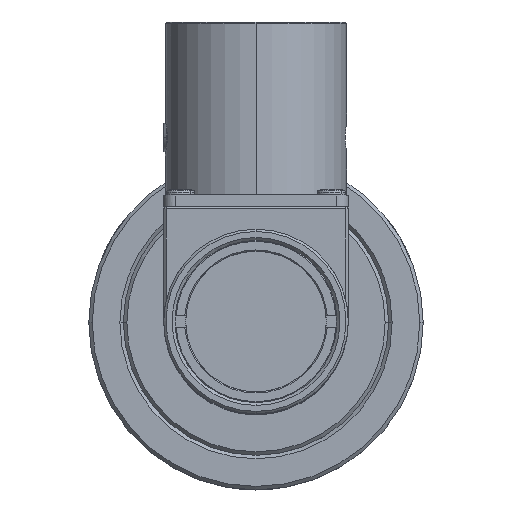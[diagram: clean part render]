
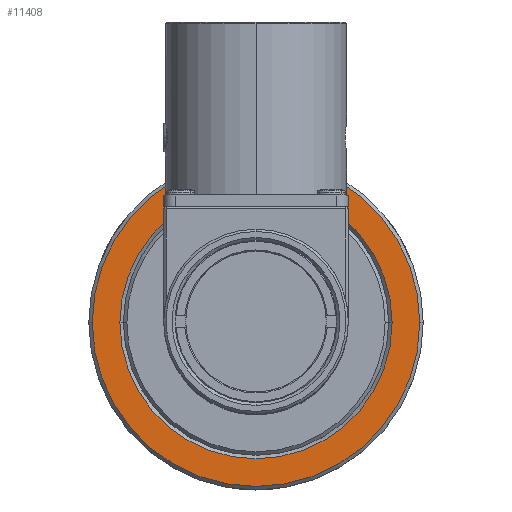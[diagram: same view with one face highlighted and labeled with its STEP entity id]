
A CAD part, top view. The second image highlights one B-rep face of the part: STEP entity #11408.
In plain terms, the highlighted planar face has unit normal (0, 0, 1).
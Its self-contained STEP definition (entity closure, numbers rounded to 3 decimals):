
#105 = EDGE_CURVE ( 'NONE', #8344, #8002, #2827, .T. ) ;
#2818 = DIRECTION ( 'NONE',  ( -1., 0., 0. ) ) ;
#2819 = DIRECTION ( 'NONE',  ( 0., 0., -1. ) ) ;
#2820 = AXIS2_PLACEMENT_3D ( 'NONE', #2840, #2819, #2818 ) ;
#2827 = CIRCLE ( 'NONE', #2820, 11.8 ) ;
#2840 = CARTESIAN_POINT ( 'NONE',  ( 0., 0., -24.85 ) ) ;
#7998 = EDGE_CURVE ( 'NONE', #8002, #8344, #10079, .T. ) ;
#8002 = VERTEX_POINT ( 'NONE', #10077 ) ;
#8011 = EDGE_CURVE ( 'NONE', #8083, #8097, #10126, .T. ) ;
#8083 = VERTEX_POINT ( 'NONE', #10227 ) ;
#8097 = VERTEX_POINT ( 'NONE', #10273 ) ;
#8344 = VERTEX_POINT ( 'NONE', #10712 ) ;
#10043 = AXIS2_PLACEMENT_3D ( 'NONE', #10075, #10073, #10130 ) ;
#10073 = DIRECTION ( 'NONE',  ( 0., 0., -1. ) ) ;
#10075 = CARTESIAN_POINT ( 'NONE',  ( 0., 0., -24.85 ) ) ;
#10077 = CARTESIAN_POINT ( 'NONE',  ( 11.8, 0., -24.85 ) ) ;
#10079 = CIRCLE ( 'NONE', #10043, 11.8 ) ;
#10108 = DIRECTION ( 'NONE',  ( -1., 0., 0. ) ) ;
#10109 = DIRECTION ( 'NONE',  ( 0., 0., 1. ) ) ;
#10110 = CARTESIAN_POINT ( 'NONE',  ( 0., 0., -24.85 ) ) ;
#10111 = AXIS2_PLACEMENT_3D ( 'NONE', #10110, #10109, #10108 ) ;
#10126 = CIRCLE ( 'NONE', #10111, 14.2 ) ;
#10130 = DIRECTION ( 'NONE',  ( -1., 0., 0. ) ) ;
#10227 = CARTESIAN_POINT ( 'NONE',  ( 14.2, 0., -24.85 ) ) ;
#10273 = CARTESIAN_POINT ( 'NONE',  ( -14.2, 0., -24.85 ) ) ;
#10712 = CARTESIAN_POINT ( 'NONE',  ( -11.8, 0., -24.85 ) ) ;
#10779 = AXIS2_PLACEMENT_3D ( 'NONE', #10833, #10832, #10830 ) ;
#10780 = FACE_OUTER_BOUND ( 'NONE', #11728, .T. ) ;
#10791 = PLANE ( 'NONE',  #10779 ) ;
#10792 = FACE_BOUND ( 'NONE', #11428, .T. ) ;
#10830 = DIRECTION ( 'NONE',  ( -1., 0., 0. ) ) ;
#10832 = DIRECTION ( 'NONE',  ( 0., 0., -1. ) ) ;
#10833 = CARTESIAN_POINT ( 'NONE',  ( 0., 11.5, -24.85 ) ) ;
#11408 = ADVANCED_FACE ( 'NONE', ( #10792, #10780 ), #10791, .F. ) ;
#11428 = EDGE_LOOP ( 'NONE', ( #11840, #11827 ) ) ;
#11443 = DIRECTION ( 'NONE',  ( -1., 0., 0. ) ) ;
#11444 = DIRECTION ( 'NONE',  ( 0., 0., 1. ) ) ;
#11448 = CARTESIAN_POINT ( 'NONE',  ( 0., 0., -24.85 ) ) ;
#11456 = AXIS2_PLACEMENT_3D ( 'NONE', #11448, #11444, #11443 ) ;
#11458 = CIRCLE ( 'NONE', #11456, 14.2 ) ;
#11728 = EDGE_LOOP ( 'NONE', ( #11740, #11822 ) ) ;
#11740 = ORIENTED_EDGE ( 'NONE', *, *, #12092, .T. ) ;
#11822 = ORIENTED_EDGE ( 'NONE', *, *, #8011, .T. ) ;
#11827 = ORIENTED_EDGE ( 'NONE', *, *, #105, .T. ) ;
#11840 = ORIENTED_EDGE ( 'NONE', *, *, #7998, .T. ) ;
#12092 = EDGE_CURVE ( 'NONE', #8097, #8083, #11458, .T. ) ;
